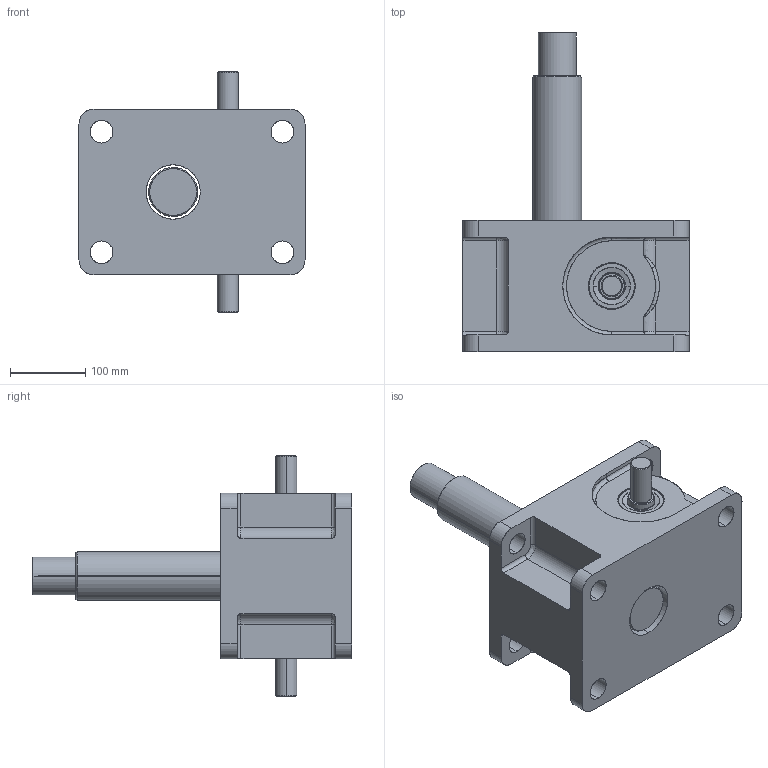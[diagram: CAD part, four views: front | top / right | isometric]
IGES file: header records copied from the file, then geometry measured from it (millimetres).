
Start section: SolidWorks IGES file using analytic representation for surfaces
Global section: file name: E:\3D\desenv\Solid Works\Levy\web\LMR\LMR20\LMR20.IGS; native system: SolidWorks 2008; preprocessor: SolidWorks 2008; author: User; date: 080730.211935; units: millimetre
Bounding box: 300 x 424 x 320 mm (x, y, z)
Surface area: 567850.7 mm2 (no closed solid volume)
Topology: 0 solids, 0 shells, 219 faces, 4590 edges, 4590 vertices
Faces by surface type: revolution 148, bspline 71
